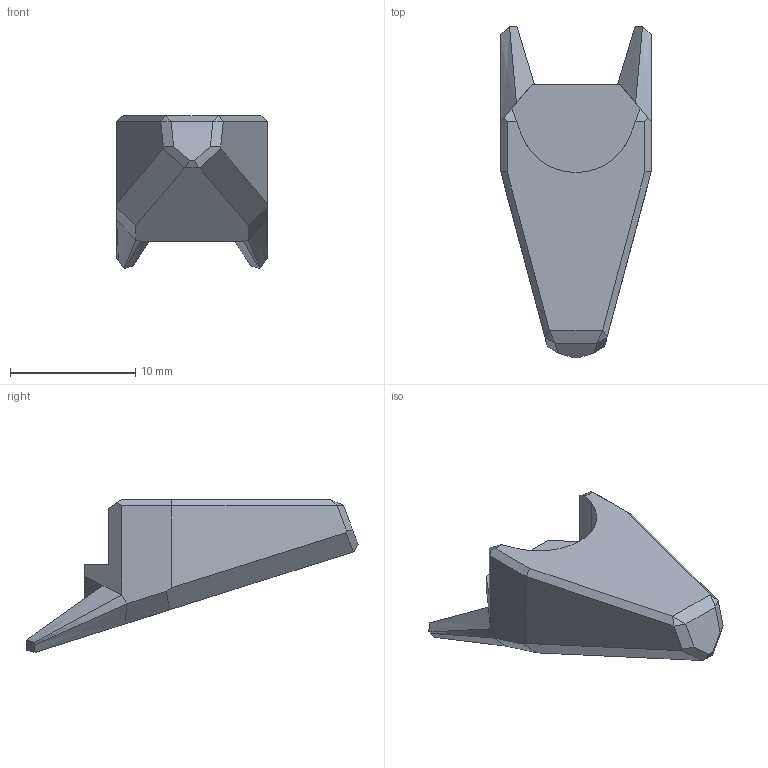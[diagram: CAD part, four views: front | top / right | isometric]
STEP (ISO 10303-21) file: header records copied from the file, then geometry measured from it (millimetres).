
FILE_DESCRIPTION (( 'STEP AP214' ), '1' );
FILE_NAME ('Head ArmorA1.STEP', '2023-12-27T19:50:31', ( '' ), ( '' ), 'SwSTEP 2.0', 'SolidWorks 2023', '' );
FILE_SCHEMA (( 'AUTOMOTIVE_DESIGN' ));
Length unit declared in the file: millimetre
Products named in the file (1): Head ArmorA1
Bounding box: 12 x 26.47 x 12.18 mm (x, y, z)
Volume: 1154.4 mm3; surface area: 929.9 mm2
Topology: 1 solids, 1 shells, 53 faces, 133 edges, 82 vertices
Faces by surface type: plane 40, bspline 12, cylinder 1
Entity records: 1668 total; most frequent: CARTESIAN_POINT 447, ORIENTED_EDGE 266, DIRECTION 207, EDGE_CURVE 133, VECTOR 115, LINE 115, VERTEX_POINT 82, EDGE_LOOP 53
